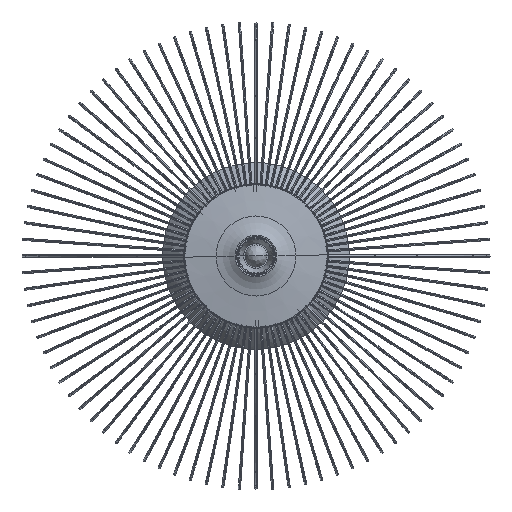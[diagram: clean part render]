
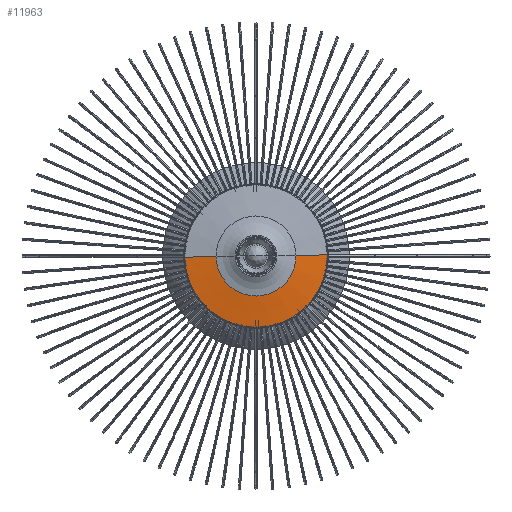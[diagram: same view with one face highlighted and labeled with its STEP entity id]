
A CAD part, front view. The second image highlights one B-rep face of the part: STEP entity #11963.
In plain terms, the highlighted conical face has half-angle 82 degrees and reference radius 80.878 mm.
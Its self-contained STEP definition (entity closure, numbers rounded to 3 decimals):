
#2091 = VERTEX_POINT ( 'NONE', #16480 ) ;
#2612 = ORIENTED_EDGE ( 'NONE', *, *, #8219, .T. ) ;
#4526 = LINE ( 'NONE', #27459, #64588 ) ;
#8219 = EDGE_CURVE ( 'NONE', #2091, #64346, #70395, .T. ) ;
#8429 = CARTESIAN_POINT ( 'NONE',  ( -80.037, -3.617, -1.283 ) ) ;
#11379 = VERTEX_POINT ( 'NONE', #44157 ) ;
#11963 = ADVANCED_FACE ( 'NONE', ( #89844 ), #82975, .T. ) ;
#13773 = CARTESIAN_POINT ( 'NONE',  ( -80.867, -3.5, -1.296 ) ) ;
#16092 = CARTESIAN_POINT ( 'NONE',  ( 80.037, -3.617, 1.283 ) ) ;
#16480 = CARTESIAN_POINT ( 'NONE',  ( -44.95, -8.548, -0.72 ) ) ;
#19209 = CARTESIAN_POINT ( 'NONE',  ( 0., -8.548, 0. ) ) ;
#19632 = CARTESIAN_POINT ( 'NONE',  ( 0., -3.5, 0. ) ) ;
#20950 = ORIENTED_EDGE ( 'NONE', *, *, #46196, .T. ) ;
#25195 = DIRECTION ( 'NONE',  ( 0., -1., 0. ) ) ;
#27459 = CARTESIAN_POINT ( 'NONE',  ( 80.867, -3.5, 1.296 ) ) ;
#28077 = CIRCLE ( 'NONE', #54922, 44.956 ) ;
#35177 = CIRCLE ( 'NONE', #63626, 80.047 ) ;
#41491 = ORIENTED_EDGE ( 'NONE', *, *, #43107, .T. ) ;
#43107 = EDGE_CURVE ( 'NONE', #64346, #65831, #35177, .T. ) ;
#44157 = CARTESIAN_POINT ( 'NONE',  ( 44.95, -8.548, 0.72 ) ) ;
#46196 = EDGE_CURVE ( 'NONE', #11379, #2091, #28077, .T. ) ;
#46815 = DIRECTION ( 'NONE',  ( 1., 0., 0.016 ) ) ;
#48210 = DIRECTION ( 'NONE',  ( 0., 1., 0. ) ) ;
#48602 = AXIS2_PLACEMENT_3D ( 'NONE', #19632, #48210, #46815 ) ;
#54298 = DIRECTION ( 'NONE',  ( 1., 0., 0.016 ) ) ;
#54922 = AXIS2_PLACEMENT_3D ( 'NONE', #19209, #55238, #54298 ) ;
#55238 = DIRECTION ( 'NONE',  ( 0., 1., 0. ) ) ;
#55655 = ORIENTED_EDGE ( 'NONE', *, *, #58768, .F. ) ;
#58768 = EDGE_CURVE ( 'NONE', #11379, #65831, #4526, .T. ) ;
#62591 = DIRECTION ( 'NONE',  ( 0.99, 0.139, 0.016 ) ) ;
#63626 = AXIS2_PLACEMENT_3D ( 'NONE', #74351, #25195, #66875 ) ;
#64346 = VERTEX_POINT ( 'NONE', #8429 ) ;
#64588 = VECTOR ( 'NONE', #62591, 1000. ) ;
#65831 = VERTEX_POINT ( 'NONE', #16092 ) ;
#66875 = DIRECTION ( 'NONE',  ( -1., 0., -0.016 ) ) ;
#70395 = LINE ( 'NONE', #13773, #75608 ) ;
#74351 = CARTESIAN_POINT ( 'NONE',  ( 0., -3.617, 0. ) ) ;
#75608 = VECTOR ( 'NONE', #91462, 1000. ) ;
#80711 = EDGE_LOOP ( 'NONE', ( #20950, #2612, #41491, #55655 ) ) ;
#82975 = CONICAL_SURFACE ( 'NONE', #48602, 80.878, 1.431 ) ;
#89844 = FACE_OUTER_BOUND ( 'NONE', #80711, .T. ) ;
#91462 = DIRECTION ( 'NONE',  ( -0.99, 0.139, -0.016 ) ) ;
